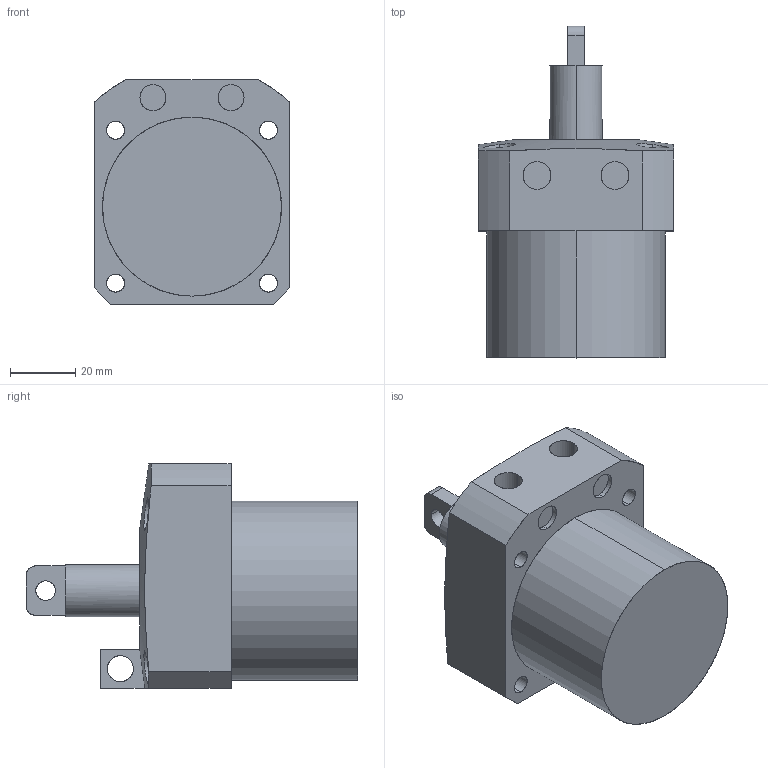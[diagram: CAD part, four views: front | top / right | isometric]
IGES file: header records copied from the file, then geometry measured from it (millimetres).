
Start section: SolidWorks IGES file using analytic representation for surfaces
Global section: file name: E:\karthik\pneu toogle\55\0412-0551.IGS; native system: SolidWorks 2010; preprocessor: SolidWorks 2010; author: karthik; date: 130916.175546; units: millimetre
Bounding box: 60 x 102 x 69 mm (x, y, z)
Surface area: 27023.8 mm2 (no closed solid volume)
Topology: 0 solids, 0 shells, 76 faces, 1582 edges, 1582 vertices
Faces by surface type: revolution 45, bspline 31
